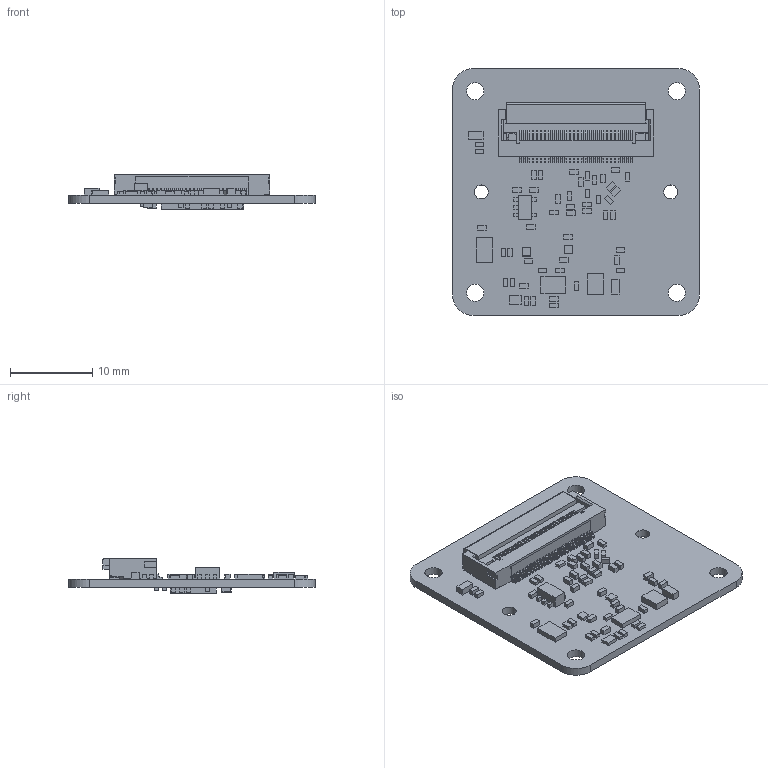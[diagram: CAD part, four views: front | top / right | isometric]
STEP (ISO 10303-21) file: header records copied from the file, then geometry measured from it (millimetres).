
FILE_DESCRIPTION(/* description */ ('289-20-0-05-00'),/* implementation_level */ '2;1');
FILE_NAME(/* name */ 'D:\HiDrive\1_Konstruktion\1_KUNDEN\TIS\289-20_MIPI-Dokumentation\KundenStepModell (KSM)\289-20-0_MIPI-MX-Modul (Sensorboard)\289-20-0-05-00_MX_AR0234-R100.stp',/* time_stamp */ '2020-12-16T22:02:09+01:00',/* author */ ('Westermann'),/* organization */ ('TIS, Bremen-Germany'),/* preprocessor_version */ 'ST-DEVELOPER v16.5',/* originating_system */ 'Autodesk Inventor 2017',/* authorisation */ '6767,5 mm^3');
FILE_SCHEMA (('AUTOMOTIVE_DESIGN { 1 0 10303 214 3 1 1 }'));
Length unit declared in the file: millimetre
Products named in the file (1): 289-20-0-05-00_MX_AR0234-R100
Bounding box: 30.01 x 30 x 4.25 mm (x, y, z)
Volume: 1181 mm3; surface area: 2606.2 mm2
Topology: 2 solids, 2 shells, 1333 faces, 3848 edges, 2561 vertices
Faces by surface type: plane 1139, cylinder 194
Full cylindrical faces by diameter (mm): 1.7 x2, 2.1 x4
Entity records: 44834 total; most frequent: CARTESIAN_POINT 7737, ORIENTED_EDGE 7684, DIRECTION 6899, EDGE_CURVE 3842, LINE 3453, VECTOR 3453, VERTEX_POINT 2561, AXIS2_PLACEMENT_3D 1723
